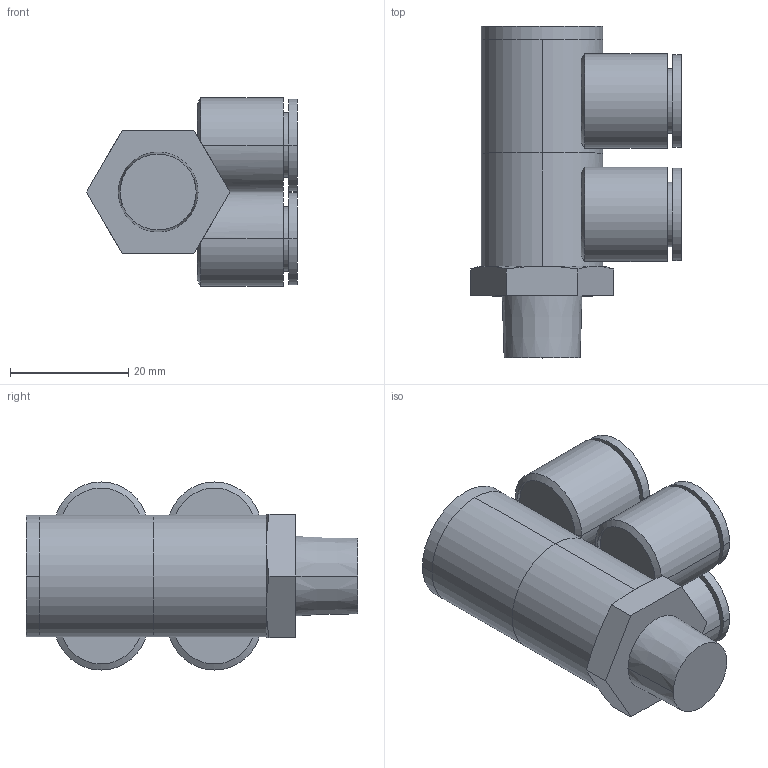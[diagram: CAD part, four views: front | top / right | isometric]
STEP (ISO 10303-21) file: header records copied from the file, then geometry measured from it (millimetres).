
FILE_DESCRIPTION (( 'STEP AP203' ), '1' );
FILE_NAME ('FZD10-02.STEP', '2020-05-11T14:49:00', ( '' ), ( '' ), 'SwSTEP 2.0', 'SolidWorks 2019', '' );
FILE_SCHEMA (( 'CONFIG_CONTROL_DESIGN' ));
Length unit declared in the file: millimetre
Products named in the file (1): FZD10-02
Bounding box: 35.72 x 56.2 x 31.85 mm (x, y, z)
Volume: 23972.7 mm3; surface area: 15491.9 mm2
Topology: 3 solids, 3 shells, 114 faces, 250 edges, 159 vertices
Faces by surface type: cylinder 60, plane 33, cone 21
Entity records: 3918 total; most frequent: CARTESIAN_POINT 1272, DIRECTION 575, ORIENTED_EDGE 500, EDGE_CURVE 250, AXIS2_PLACEMENT_3D 246, VERTEX_POINT 159, EDGE_LOOP 135, CIRCLE 131
